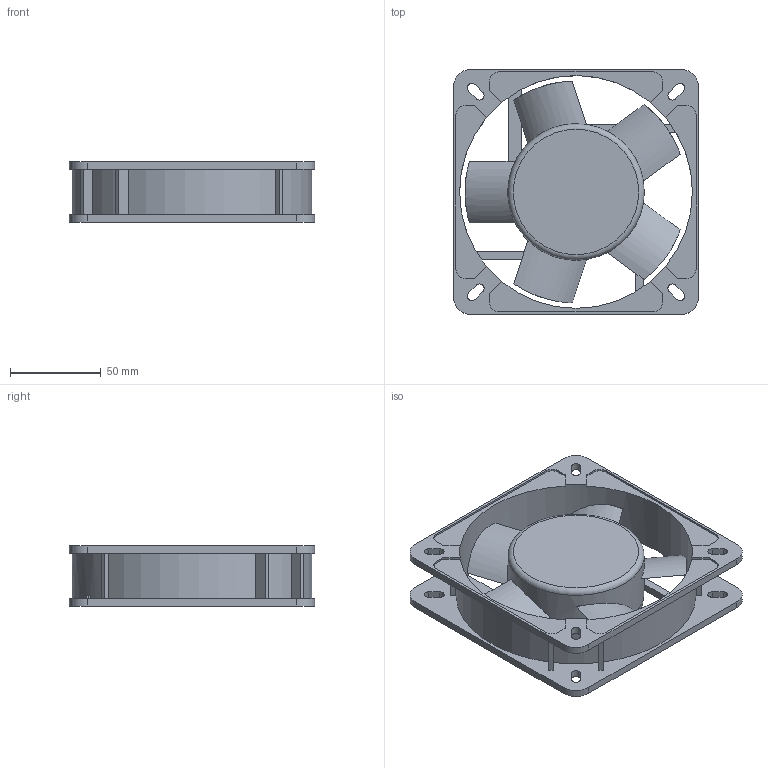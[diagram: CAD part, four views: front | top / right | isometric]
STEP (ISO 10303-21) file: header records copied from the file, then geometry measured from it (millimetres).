
FILE_DESCRIPTION(('STEP AP214'), '1');
FILE_NAME('Âåíòèëÿòîð 125FZY2-B', '', ('UNSPECIFIED'), ('UNSPECIFIED'), 'ASCON STEP Converter 1.6', 'ASCON Math Kernel', '');
FILE_SCHEMA(('AUTOMOTIVE_DESIGN { 1 0 10303 214 3 1 1}'));
Length unit declared in the file: millimetre
Bounding box: 135 x 135 x 33 mm (x, y, z)
Volume: 203967 mm3; surface area: 77197.5 mm2
Topology: 1 solids, 1 shells, 183 faces, 538 edges, 355 vertices
Faces by surface type: plane 113, cylinder 59, bspline 10, torus 1
Full cylindrical faces by diameter (mm): 75 x1, 128 x1
Entity records: 9320 total; most frequent: CARTESIAN_POINT 2830, ORIENTED_EDGE 1070, DIRECTION 1009, EDGE_CURVE 535, LINE 369, VECTOR 369, VERTEX_POINT 355, AXIS2_PLACEMENT_3D 320
